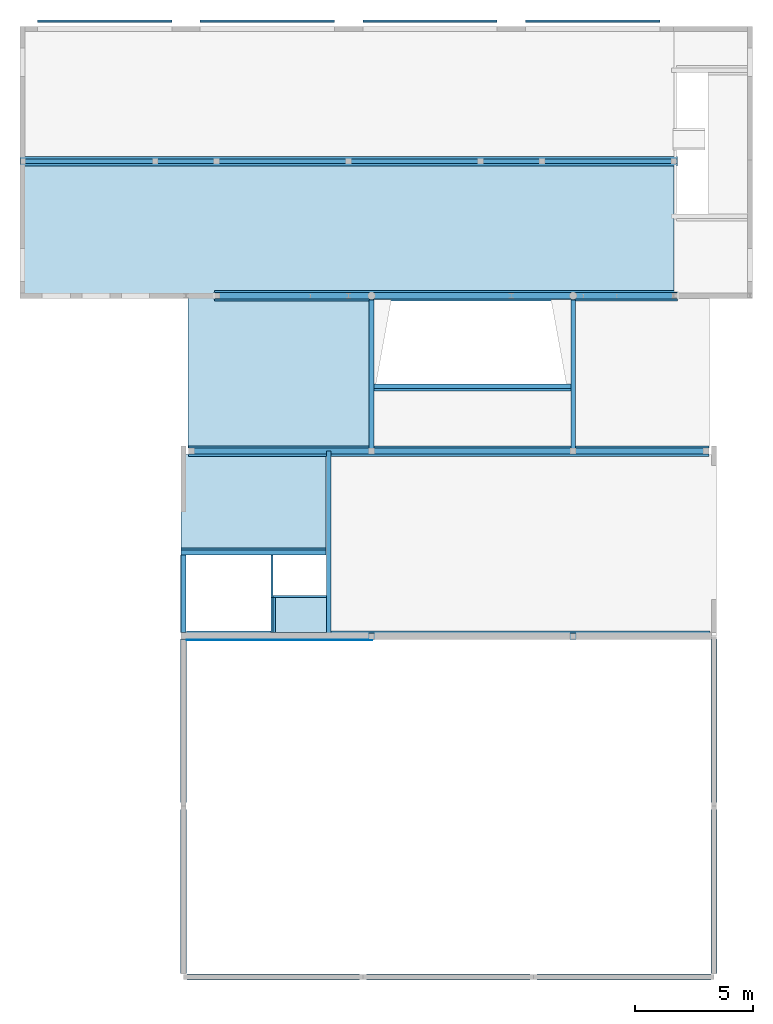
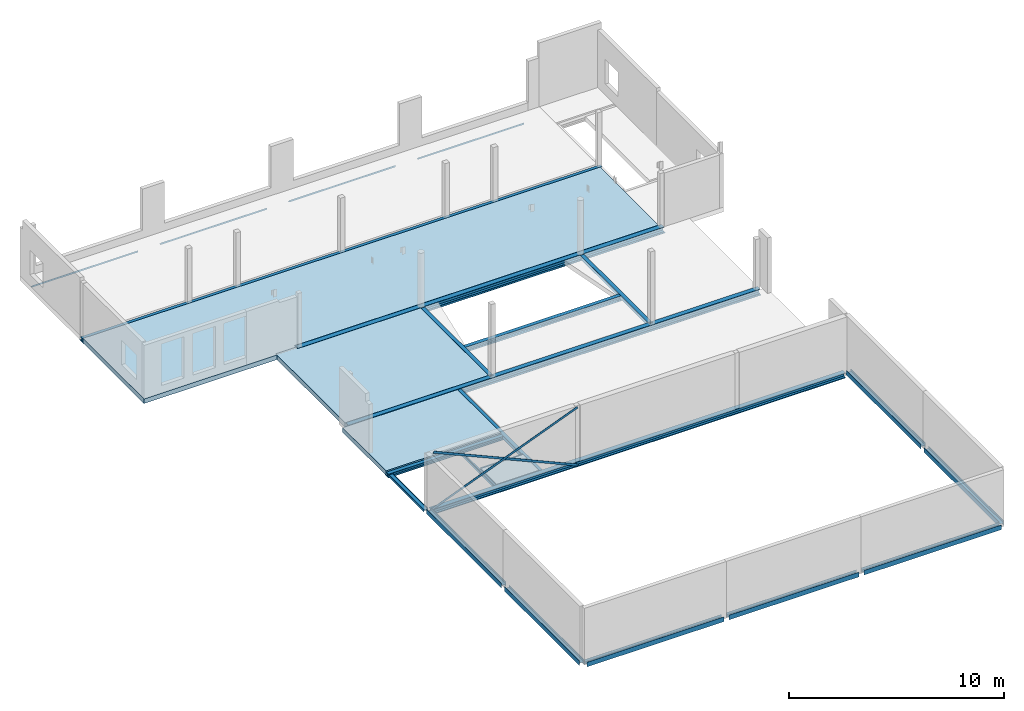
# One storey, part 2 of 6: 26 beams, 4 slabs.
"""IFC2X3 building model written with IfcOpenShell, lengths in millimetres."""

from ifc_helpers import new_model, entity, si_unit, converted_unit, derived_unit, direction, frame, frame_2d, origin, origin_2d_with_axis, place, context, subcontext, project, spatial, polyline, rectangle, i_section, outline, extrude, source, transform, mapped, material, layer, layer_set, layer_usage, type_object, type_shapes, element, save


model = new_model("IFC2X3")

# Units and contexts
model_context = context("Model", 3, precision=0.01, world=origin(), true_north=direction((6.123031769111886e-17, 1.0)))
body_context = subcontext(model_context, "Body", "Model", "MODEL_VIEW")
ifc_project = project(units=[si_unit("LENGTHUNIT", "METRE", prefix="MILLI"), si_unit("AREAUNIT", "SQUARE_METRE", prefix="MILLI"), si_unit("VOLUMEUNIT", "CUBIC_METRE"), converted_unit("PLANEANGLEUNIT", "DEGREE", entity("IfcPlaneAngleMeasure", 0.017453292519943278), si_unit("PLANEANGLEUNIT", "RADIAN"), dimensions=[0, 0, 0, 0, 0, 0, 0]), si_unit("MASSUNIT", "GRAM", prefix="KILO"), derived_unit("MASSDENSITYUNIT", [(si_unit("MASSUNIT", "GRAM", prefix="KILO"), 1), (si_unit("LENGTHUNIT", "METRE"), -3)]), derived_unit("IONCONCENTRATIONUNIT", [(si_unit("MASSUNIT", "GRAM", prefix="KILO"), 1), (si_unit("LENGTHUNIT", "METRE"), -3)]), derived_unit("MOMENTOFINERTIAUNIT", [(si_unit("LENGTHUNIT", "METRE"), 4)]), si_unit("TIMEUNIT", "SECOND"), si_unit("FREQUENCYUNIT", "HERTZ"), si_unit("THERMODYNAMICTEMPERATUREUNIT", "DEGREE_CELSIUS"), derived_unit("THERMALTRANSMITTANCEUNIT", [(si_unit("MASSUNIT", "GRAM", prefix="KILO"), 1), (si_unit("THERMODYNAMICTEMPERATUREUNIT", "KELVIN"), -1), (si_unit("TIMEUNIT", "SECOND"), -3)]), derived_unit("THERMALCONDUCTANCEUNIT", [(si_unit("MASSUNIT", "GRAM", prefix="KILO"), 1), (si_unit("THERMODYNAMICTEMPERATUREUNIT", "KELVIN"), -1), (si_unit("TIMEUNIT", "SECOND"), -3), (si_unit("LENGTHUNIT", "METRE"), 1)]), derived_unit("VOLUMETRICFLOWRATEUNIT", [(si_unit("LENGTHUNIT", "METRE", prefix="DECI"), 3), (si_unit("TIMEUNIT", "SECOND"), -1)]), derived_unit("MASSFLOWRATEUNIT", [(si_unit("MASSUNIT", "GRAM", prefix="KILO"), 1), (si_unit("TIMEUNIT", "SECOND"), -1)]), derived_unit("ROTATIONALFREQUENCYUNIT", [(si_unit("TIMEUNIT", "SECOND"), -1)]), si_unit("ELECTRICCURRENTUNIT", "AMPERE"), si_unit("ELECTRICVOLTAGEUNIT", "VOLT"), si_unit("POWERUNIT", "WATT"), si_unit("FORCEUNIT", "NEWTON", prefix="KILO"), si_unit("ILLUMINANCEUNIT", "LUX"), si_unit("LUMINOUSFLUXUNIT", "LUMEN"), si_unit("LUMINOUSINTENSITYUNIT", "CANDELA"), si_unit("ENERGYUNIT", "JOULE"), derived_unit("USERDEFINED", [(si_unit("MASSUNIT", "GRAM", prefix="KILO"), -1), (si_unit("LENGTHUNIT", "METRE"), -2), (si_unit("TIMEUNIT", "SECOND"), 3), (si_unit("LUMINOUSFLUXUNIT", "LUMEN"), 1)]), derived_unit("USERDEFINED", [(si_unit("MASSUNIT", "GRAM", prefix="KILO"), 1), (si_unit("TIMEUNIT", "SECOND"), -3), (si_unit("LENGTHUNIT", "METRE"), 3), (si_unit("ELECTRICCURRENTUNIT", "AMPERE"), -2)]), derived_unit("SOUNDPOWERUNIT", [(si_unit("MASSUNIT", "GRAM", prefix="KILO"), 1), (si_unit("TIMEUNIT", "SECOND"), -3), (si_unit("LENGTHUNIT", "METRE"), 2)]), derived_unit("SOUNDPRESSUREUNIT", [(si_unit("MASSUNIT", "GRAM", prefix="KILO"), 1), (si_unit("LENGTHUNIT", "METRE"), -1), (si_unit("TIMEUNIT", "SECOND"), -2)]), derived_unit("LINEARVELOCITYUNIT", [(si_unit("LENGTHUNIT", "METRE"), 1), (si_unit("TIMEUNIT", "SECOND"), -1)]), si_unit("PRESSUREUNIT", "PASCAL"), derived_unit("USERDEFINED", [(si_unit("MASSUNIT", "GRAM", prefix="KILO"), 1), (si_unit("LENGTHUNIT", "METRE"), -2), (si_unit("TIMEUNIT", "SECOND"), -2)]), derived_unit("LINEARFORCEUNIT", [(si_unit("MASSUNIT", "GRAM", prefix="KILO"), 1), (si_unit("TIMEUNIT", "SECOND"), -2)]), derived_unit("PLANARFORCEUNIT", [(si_unit("MASSUNIT", "GRAM", prefix="KILO"), 1), (si_unit("LENGTHUNIT", "METRE"), -1), (si_unit("TIMEUNIT", "SECOND"), -2)]), derived_unit("SPECIFICHEATCAPACITYUNIT", [(si_unit("THERMODYNAMICTEMPERATUREUNIT", "KELVIN"), -1), (si_unit("LENGTHUNIT", "METRE"), 2), (si_unit("TIMEUNIT", "SECOND"), -2)]), derived_unit("HEATFLUXDENSITYUNIT", [(si_unit("MASSUNIT", "GRAM", prefix="KILO"), 1), (si_unit("TIMEUNIT", "SECOND"), -3)]), derived_unit("HEATINGVALUEUNIT", [(si_unit("LENGTHUNIT", "METRE"), 2), (si_unit("TIMEUNIT", "SECOND"), -2)]), derived_unit("VAPORPERMEABILITYUNIT", [(si_unit("LENGTHUNIT", "METRE"), -1), (si_unit("TIMEUNIT", "SECOND"), 1)]), derived_unit("DYNAMICVISCOSITYUNIT", [(si_unit("MASSUNIT", "GRAM", prefix="KILO"), 1), (si_unit("TIMEUNIT", "SECOND"), -1), (si_unit("LENGTHUNIT", "METRE"), -1)]), derived_unit("THERMALEXPANSIONCOEFFICIENTUNIT", [(si_unit("THERMODYNAMICTEMPERATUREUNIT", "KELVIN"), -1)]), derived_unit("MODULUSOFELASTICITYUNIT", [(si_unit("MASSUNIT", "GRAM", prefix="KILO"), 1), (si_unit("LENGTHUNIT", "METRE"), -1), (si_unit("TIMEUNIT", "SECOND"), -2)]), derived_unit("ISOTHERMALMOISTURECAPACITYUNIT", [(si_unit("MASSUNIT", "GRAM", prefix="KILO"), -1), (si_unit("LENGTHUNIT", "METRE"), 3)]), derived_unit("MOISTUREDIFFUSIVITYUNIT", [(si_unit("TIMEUNIT", "SECOND"), -1), (si_unit("LENGTHUNIT", "METRE"), 2)]), derived_unit("MASSPERLENGTHUNIT", [(si_unit("MASSUNIT", "GRAM", prefix="KILO"), 1), (si_unit("LENGTHUNIT", "METRE"), -1)]), derived_unit("THERMALRESISTANCEUNIT", [(si_unit("MASSUNIT", "GRAM", prefix="KILO"), -1), (si_unit("TIMEUNIT", "SECOND"), 3), (si_unit("THERMODYNAMICTEMPERATUREUNIT", "KELVIN"), 1)]), derived_unit("ACCELERATIONUNIT", [(si_unit("LENGTHUNIT", "METRE"), 1), (si_unit("TIMEUNIT", "SECOND"), -2)]), derived_unit("ANGULARVELOCITYUNIT", [(si_unit("TIMEUNIT", "SECOND"), -1), (si_unit("PLANEANGLEUNIT", "RADIAN"), 1)]), derived_unit("LINEARSTIFFNESSUNIT", [(si_unit("MASSUNIT", "GRAM", prefix="KILO"), 1), (si_unit("TIMEUNIT", "SECOND"), -2)]), derived_unit("WARPINGCONSTANTUNIT", [(si_unit("LENGTHUNIT", "METRE"), 6)]), derived_unit("LINEARMOMENTUNIT", [(si_unit("MASSUNIT", "GRAM", prefix="KILO"), 1), (si_unit("LENGTHUNIT", "METRE"), 1), (si_unit("TIMEUNIT", "SECOND"), -2)]), derived_unit("TORQUEUNIT", [(si_unit("MASSUNIT", "GRAM", prefix="KILO"), 1), (si_unit("LENGTHUNIT", "METRE"), 2), (si_unit("TIMEUNIT", "SECOND"), -2)])], contexts=[model_context])

# Site, building, storey
site_placement = place(None, origin())
site = spatial("IfcSite", under=ifc_project, at=site_placement, Name="Default", CompositionType="ELEMENT")
building_placement = place(site_placement, origin())
building = spatial("IfcBuilding", under=site, at=building_placement, CompositionType="ELEMENT")
storey_placement = place(building_placement, frame((0.0, 0.0, 7530.0)))
storey = spatial("IfcBuildingStorey", under=building, at=storey_placement, Name="V2 2e verd. (bk ruwe vloer)", CompositionType="ELEMENT", Elevation=7529.999999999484)

# Beams
ifc_material_1 = material(Name="Metal - Steel - S355 JR (standaard-geintegreerde liggers)")
beam_type_1 = type_object("IfcBeamType", Name="btl_staal - SFB:SFB HEM240+450x15", PredefinedType="BEAM", material=ifc_material_1)
shared_shape_1 = source(origin(), body_context, "Body", "SweptSolid", [
    extrude(outline(polyline([(103.0, -124.0), (135.0, -124.0), (135.0, 124.0), (103.0, 124.0), (103.0, 9.0), (-103.0, 9.0), (-103.0, 124.0), (-135.0, 124.0), (-135.0, -124.0), (-103.0, -124.0), (-103.0, -9.0), (103.0, -9.0), (103.0, -124.0)])), frame((-11038.977585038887, 0.0, 36.0), z_axis=(1.0, 0.0, 0.0), x_axis=(0.0, 0.0, -1.0)), (0.0, 0.0, 1.0), 22077.95517007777),
    extrude(rectangle(XDim=15.000000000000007, YDim=450.00000000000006, at=frame_2d((-1.687538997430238e-14, 0.0), x_axis=(1.0, 0.0))), frame((-11038.977585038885, 0.0, -106.50000000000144), z_axis=(1.0, 0.0, 0.0), x_axis=(0.0, 0.0, -1.0)), (0.0, 0.0, 1.0), 22077.95517007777),
])
type_shapes(beam_type_1, [shared_shape_1])
beam_1_placement = place(storey_placement, frame((17975.001944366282, 25344.605013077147, -161.0)))
element("IfcBeam", 1, at=beam_1_placement, inside=storey, type_object=beam_type_1, material=ifc_material_1, Name="btl_staal - SFB:SFB HEM240+450x15", ObjectType="btl_staal - SFB:SFB HEM240+450x15", context=body_context, shape_type="MappedRepresentation", body=[
    mapped(shared_shape_1, transform((0.0, 0.0, 0.0), scale=1.0)),
])
beam_type_2 = type_object("IfcBeamType", Name="btl_staal - SFB:SFB HEB260+460x15", PredefinedType="BEAM", material=ifc_material_1)
shared_shape_2 = source(origin(), body_context, "Body", "SweptSolid", [
    extrude(outline(polyline([(112.49999999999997, -130.0), (130.0, -130.0), (130.0, 130.0), (112.49999999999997, 130.0), (112.49999999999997, 5.0), (-112.50000000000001, 5.0), (-112.50000000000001, 130.0), (-130.0, 130.0), (-130.0, -130.0), (-112.50000000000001, -130.0), (-112.50000000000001, -5.0), (112.49999999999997, -5.0), (112.49999999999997, -130.0)])), frame((-9816.164764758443, 0.0, 51.0), z_axis=(1.0, 0.0, 0.0), x_axis=(0.0, 0.0, -1.0)), (0.0, 0.0, 1.0), 19632.329529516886),
    extrude(rectangle(XDim=14.999999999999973, YDim=460.0, at=origin_2d_with_axis()), frame((-9816.164764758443, 0.0, -86.50000000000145), z_axis=(1.0, 0.0, 0.0), x_axis=(0.0, 0.0, -1.0)), (0.0, 0.0, 1.0), 19632.329529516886),
])
type_shapes(beam_type_2, [shared_shape_2])
beam_2_placement = place(storey_placement, frame((17856.721088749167, 31937.57320506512, -181.0)))
element("IfcBeam", 2, at=beam_2_placement, inside=storey, type_object=beam_type_2, material=ifc_material_1, Name="btl_staal - SFB:SFB HEB260+460x15", ObjectType="btl_staal - SFB:SFB HEB260+460x15", context=body_context, shape_type="MappedRepresentation", body=[
    mapped(shared_shape_2, transform((0.0, 0.0, 0.0), scale=1.0)),
])
beam_type_3 = type_object("IfcBeamType", Name="btl_staal - SFB:SFB HEB200+400x15 (S355)", PredefinedType="BEAM", material=ifc_material_1)
shared_shape_3 = source(origin(), body_context, "Body", "SweptSolid", [
    extrude(outline(polyline([(85.0, -100.0), (100.0, -100.0), (100.0, 100.0), (85.0, 100.0), (85.0, 4.49999999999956), (-85.0, 4.49999999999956), (-85.0, 100.0), (-100.0, 100.0), (-100.0, -100.0), (-85.0, -100.0), (-85.0, -4.500000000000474), (85.0, -4.500000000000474), (85.0, -100.0)])), frame((-13944.48976005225, 0.0, 47.0), z_axis=(1.0, 0.0, 0.0), x_axis=(0.0, 0.0, -1.0)), (0.0, 0.0, 1.0), 27888.979520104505),
    extrude(rectangle(XDim=15.000000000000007, YDim=400.0, at=origin_2d_with_axis()), frame((-13944.489760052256, 0.0, -60.50000000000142), z_axis=(1.0, 0.0, 0.0), x_axis=(0.0, 0.0, -1.0)), (0.0, 0.0, 1.0), 27888.979520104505),
])
type_shapes(beam_type_3, [shared_shape_3])
beam_3_placement = place(storey_placement, frame((13730.48976005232, 37644.573205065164, -207.0)))
element("IfcBeam", 3, at=beam_3_placement, inside=storey, type_object=beam_type_3, material=ifc_material_1, Name="btl_staal - SFB:SFB HEB200+400x15 (S355)", ObjectType="btl_staal - SFB:SFB HEB200+400x15 (S355)", context=body_context, shape_type="MappedRepresentation", body=[
    mapped(shared_shape_3, transform((0.0, 0.0, 0.0), scale=1.0)),
])
ifc_material_2 = material(Name="Metal - Steel - S235 JRG2 (standaard)")
beam_type_4 = type_object("IfcBeamType", Name="btl_staal - Strip b x h:120x12 Vwvb", PredefinedType="NOTDEFINED")
beam_4_placement = place(storey_placement, frame((6723.000781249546, 17338.605013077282, 0.0), z_axis=(-0.36490078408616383, 5.892514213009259e-05, 0.9310464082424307), x_axis=(0.9310463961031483, -0.0001503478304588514, 0.36490078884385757)))
element("IfcBeam", 4, at=beam_4_placement, inside=storey, type_object=beam_type_4, material=ifc_material_2, Name="btl_staal - Strip b x h:120x12 Vwvb", ObjectType="btl_staal - Strip b x h:120x12 Vwvb", context=body_context, shape_type="SweptSolid", body=[
    extrude(rectangle(XDim=120.00000000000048, YDim=12.00000000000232, at=frame_2d((-6.998845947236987e-13, 0.0), x_axis=(1.0, 0.0))), frame((170.47410938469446, 0.0, 0.0), z_axis=(1.0, 0.0, 0.0), x_axis=(0.0, 0.0, -1.0)), (0.0, 0.0, 1.0), 8366.858182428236),
])
beam_5_placement = place(storey_placement, frame((14703.242734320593, 17338.605013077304, -181.0), z_axis=(0.4061447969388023, 0.0, 0.9138087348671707), x_axis=(-0.9138087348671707, 0.0, 0.4061447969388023)))
element("IfcBeam", 5, at=beam_5_placement, inside=storey, type_object=beam_type_4, material=ifc_material_2, Name="btl_staal - Strip b x h:120x12 Vwvb", ObjectType="btl_staal - Strip b x h:120x12 Vwvb", context=body_context, shape_type="SweptSolid", body=[
    extrude(rectangle(XDim=119.99999999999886, YDim=12.000000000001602, at=frame_2d((-9.912071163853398e-13, -3.248512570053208e-12), x_axis=(1.0, 0.0))), frame((0.0, 0.0, 0.0), z_axis=(1.0, 0.0, 0.0), x_axis=(0.0, 0.0, -1.0)), (0.0, 0.0, 1.0), 8491.929851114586),
])
beam_type_5 = type_object("IfcBeamType", Name="btl_staal - HE(a-b-m):HEB200 (S355)", PredefinedType="NOTDEFINED")
beam_6_placement = place(storey_placement, frame((14699.994921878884, 25344.605013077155, 10.0), z_axis=(0.0, 0.0015167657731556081, 0.9999988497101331), x_axis=(0.0, 0.9999988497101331, -0.0015167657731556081)))
element("IfcBeam", 6, at=beam_6_placement, inside=storey, type_object=beam_type_5, material=ifc_material_1, Name="btl_staal - HE(a-b-m):HEB200 (S355)", ObjectType="btl_staal - HE(a-b-m):HEB200 (S355)", context=body_context, shape_type="SweptSolid", body=[
    extrude(i_section(OverallWidth=200.0, OverallDepth=199.99999999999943, WebThickness=9.00000000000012, FlangeThickness=15.000000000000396, at=frame_2d((0.0, -1.0871303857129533e-12), x_axis=(0.0, 1.0))), frame((12.700000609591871, 0.0, -100.0), z_axis=(1.0, 0.0, 0.0), x_axis=(0.0, 0.0, -1.0)), (0.0, 0.0, 1.0), 6405.625588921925),
])
beam_7_placement = place(storey_placement, frame((23249.986607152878, 25344.605013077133, 10.0), z_axis=(0.0, 0.0015167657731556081, 0.9999988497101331), x_axis=(0.0, 0.9999988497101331, -0.0015167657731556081)))
element("IfcBeam", 7, at=beam_7_placement, inside=storey, type_object=beam_type_5, material=ifc_material_1, Name="btl_staal - HE(a-b-m):HEB200 (S355)", ObjectType="btl_staal - HE(a-b-m):HEB200 (S355)", context=body_context, shape_type="SweptSolid", body=[
    extrude(i_section(OverallWidth=200.0000000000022, OverallDepth=199.99999999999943, WebThickness=9.000000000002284, FlangeThickness=15.000000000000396, at=frame_2d((0.0, 2.1671553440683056e-12), x_axis=(0.0, 1.0))), frame((12.700000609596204, 0.0, -100.0), z_axis=(1.0, 0.0, 0.0), x_axis=(0.0, 0.0, -1.0)), (0.0, 0.0, 1.0), 6405.625588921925),
])
beam_type_6 = type_object("IfcBeamType", Name="btl_staal - SFB:SFB HEB200+300x10", PredefinedType="BEAM", material=ifc_material_1)
shared_shape_4 = source(origin(), body_context, "Body", "SweptSolid", [
    extrude(outline(polyline([(85.0, -100.0), (100.0, -100.0), (100.0, 100.0), (85.0, 100.0), (85.0, 4.499999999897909), (-85.0, 4.500000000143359), (-85.0, 100.0), (-100.0, 100.0), (-100.0, -100.0), (-85.0, -100.0), (-85.0, -4.4999999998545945), (85.0, -4.500000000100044), (85.0, -100.0)])), frame((14799.99492187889, 28102.74640280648, 7410.0), z_axis=(1.0, 0.0, 0.0), x_axis=(0.0, 0.0, -1.0)), (0.0, 0.0, 1.0), 8349.991685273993),
    extrude(rectangle(XDim=9.999999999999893, YDim=299.99999999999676, at=frame_2d((-1.0831335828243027e-12, 1.949729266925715e-11), x_axis=(1.0, 0.0))), frame((14799.994921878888, 28052.746402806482, 7305.0), z_axis=(1.0, 0.0, 0.0), x_axis=(0.0, 0.0, -1.0)), (0.0, 0.0, 1.0), 8349.991685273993),
])
type_shapes(beam_type_6, [shared_shape_4])
beam_8_placement = place(storey_placement, frame((0.0, 0.0, -7530.0)))
element("IfcBeam", 8, at=beam_8_placement, inside=storey, type_object=beam_type_6, material=ifc_material_1, Name="btl_staal - SFB:SFB HEB200+300x10", ObjectType="btl_staal - SFB:SFB HEB200+300x10", context=body_context, shape_type="MappedRepresentation", body=[
    mapped(shared_shape_4, transform((0.0, 0.0, 0.0), scale=1.0)),
])
beam_type_7 = type_object("IfcBeamType", Name="btl_staal - HE(a-b-m):HEA260", PredefinedType="NOTDEFINED")
beam_9_placement = place(storey_placement, frame((29351.985770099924, 17387.36345757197, 0.0), z_axis=(0.0, 0.0, 1.0), x_axis=(0.0, -1.0, 0.0)))
element("IfcBeam", 9, at=beam_9_placement, inside=storey, type_object=beam_type_7, material=ifc_material_2, Name="btl_staal - HE(a-b-m):HEA260", ObjectType="btl_staal - HE(a-b-m):HEA260", context=body_context, shape_type="SweptSolid", body=[
    extrude(i_section(OverallWidth=259.9999999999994, OverallDepth=249.9999999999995, WebThickness=7.50000000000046, FlangeThickness=12.499999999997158, at=frame_2d((5.400124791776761e-13, 2.1671553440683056e-12), x_axis=(1.0, 0.0))), frame((15.458444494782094, -125.0, 0.0), z_axis=(1.0, 0.0, 0.0), x_axis=(0.0, 0.0, -1.0)), (0.0, 0.0, 1.0), 6934.600000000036),
])
beam_10_placement = place(storey_placement, frame((29351.985770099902, 3080.485269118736, 0.0), z_axis=(0.0, 0.0, 1.0), x_axis=(0.0, 1.0, 0.0)))
element("IfcBeam", 10, at=beam_10_placement, inside=storey, type_object=beam_type_7, material=ifc_material_2, Name="btl_staal - HE(a-b-m):HEA260", ObjectType="btl_staal - HE(a-b-m):HEA260", context=body_context, shape_type="SweptSolid", body=[
    extrude(i_section(OverallWidth=260.00000000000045, OverallDepth=250.0000000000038, WebThickness=7.50000000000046, FlangeThickness=12.50000000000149, at=frame_2d((1.0800249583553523e-12, 2.1671553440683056e-12), x_axis=(1.0, 0.0))), frame((94.81974395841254, 125.0, 0.0), z_axis=(1.0, 0.0, 0.0), x_axis=(0.0, 0.0, -1.0)), (0.0, 0.0, 1.0), 6976.599999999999),
])
beam_11_placement = place(storey_placement, frame((29192.80703105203, 2915.1050130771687, 0.0), z_axis=(0.0, 0.0, 1.0), x_axis=(-1.0, 0.0, 0.0)))
element("IfcBeam", 11, at=beam_11_placement, inside=storey, type_object=beam_type_7, material=ifc_material_2, Name="btl_staal - HE(a-b-m):HEA260", ObjectType="btl_staal - HE(a-b-m):HEA260", context=body_context, shape_type="SweptSolid", body=[
    extrude(i_section(OverallWidth=259.9999999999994, OverallDepth=250.0, WebThickness=7.499999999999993, FlangeThickness=12.499999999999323, at=frame_2d((5.400124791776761e-13, -1.3571366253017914e-12), x_axis=(1.0, 0.0))), frame((103.52126095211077, -125.0, 0.0), z_axis=(1.0, 0.0, 0.0), x_axis=(0.0, 0.0, -1.0)), (0.0, 0.0, 1.0), 7373.155708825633),
])
beam_12_placement = place(storey_placement, frame((14220.949303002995, 2910.105013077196, 0.0)))
element("IfcBeam", 12, at=beam_12_placement, inside=storey, type_object=beam_type_7, material=ifc_material_2, Name="btl_staal - HE(a-b-m):HEA260", ObjectType="btl_staal - HE(a-b-m):HEA260", context=body_context, shape_type="SweptSolid", body=[
    extrude(i_section(OverallWidth=260.00000000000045, OverallDepth=249.9999999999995, WebThickness=7.500000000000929, FlangeThickness=12.500000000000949, at=frame_2d((1.0800249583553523e-12, 1.3571366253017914e-12), x_axis=(1.0, 0.0))), frame((254.3059492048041, 125.0, 0.0), z_axis=(1.0, 0.0, 0.0), x_axis=(0.0, 0.0, -1.0)), (0.0, 0.0, 1.0), 6955.474809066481),
])
beam_13_placement = place(storey_placement, frame((14328.805252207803, 2910.1050130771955, 0.0), z_axis=(0.0, 0.0, 1.0), x_axis=(-1.0, 0.0, 0.0)))
element("IfcBeam", 13, at=beam_13_placement, inside=storey, type_object=beam_type_7, material=ifc_material_2, Name="btl_staal - HE(a-b-m):HEA260", ObjectType="btl_staal - HE(a-b-m):HEA260", context=body_context, shape_type="SweptSolid", body=[
    extrude(i_section(OverallWidth=259.9999999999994, OverallDepth=250.0, WebThickness=7.4999999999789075, FlangeThickness=12.499999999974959, at=frame_2d((5.400124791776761e-13, -8.100187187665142e-13), x_axis=(1.0, 0.0))), frame((138.95000000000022, -125.0, 0.0), z_axis=(1.0, 0.0, 0.0), x_axis=(0.0, 0.0, -1.0)), (0.0, 0.0, 1.0), 7329.154470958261),
])
beam_14_placement = place(storey_placement, frame((6598.000781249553, 10294.60501307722, 0.0), z_axis=(0.0, 0.0, 1.0), x_axis=(0.0, -1.0, 0.0)))
element("IfcBeam", 14, at=beam_14_placement, inside=storey, type_object=beam_type_7, material=ifc_material_2, Name="btl_staal - HE(a-b-m):HEA260", ObjectType="btl_staal - HE(a-b-m):HEA260", context=body_context, shape_type="SweptSolid", body=[
    extrude(i_section(OverallWidth=260.00000000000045, OverallDepth=249.9999999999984, WebThickness=7.50000000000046, FlangeThickness=12.500000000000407, at=frame_2d((1.0800249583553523e-12, 5.471179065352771e-13), x_axis=(1.0, 0.0))), frame((142.69999999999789, 125.0, 0.0), z_axis=(1.0, 0.0, 0.0), x_axis=(0.0, 0.0, -1.0)), (0.0, 0.0, 1.0), 6976.599999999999),
])
beam_15_placement = place(storey_placement, frame((6598.000781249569, 10295.473531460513, 0.0), z_axis=(0.0, 0.0, 1.0), x_axis=(0.0, 1.0, 0.0)))
element("IfcBeam", 15, at=beam_15_placement, inside=storey, type_object=beam_type_7, material=ifc_material_2, Name="btl_staal - HE(a-b-m):HEA260", ObjectType="btl_staal - HE(a-b-m):HEA260", context=body_context, shape_type="SweptSolid", body=[
    extrude(i_section(OverallWidth=259.9999999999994, OverallDepth=249.9999999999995, WebThickness=7.499999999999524, FlangeThickness=12.499999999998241, at=frame_2d((5.400124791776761e-13, 0.0), x_axis=(1.0, 0.0))), frame((141.83148161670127, -125.0, 0.0), z_axis=(1.0, 0.0, 0.0), x_axis=(0.0, 0.0, -1.0)), (0.0, 0.0, 1.0), 6934.600000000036),
])
beam_type_8 = type_object("IfcBeamType", Name="btl_staal - SFB:SFB HEB260+360x15", PredefinedType="BEAM", material=ifc_material_1)
shared_shape_5 = source(origin(), body_context, "Body", "SweptSolid", [
    extrude(rectangle(XDim=14.999999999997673, YDim=379.99999999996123, at=frame_2d((5.413447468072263e-13, 0.0), x_axis=(1.0, 0.0))), frame((6851.310545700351, 17534.605013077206, 7262.500000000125), z_axis=(1.0, 0.0, 0.0), x_axis=(0.0, 0.0, -1.0)), (0.0, 0.0, 1.0), 22207.74265847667),
    extrude(outline(polyline([(112.50000000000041, -130.0), (130.0, -130.0), (130.0, 130.0), (112.50000000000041, 130.0), (112.50000000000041, 5.0), (-112.50000000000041, 5.0), (-112.50000000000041, 130.0), (-130.0, 130.0), (-130.0, -130.0), (-112.50000000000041, -130.0), (-112.50000000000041, -5.0), (112.50000000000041, -5.0), (112.50000000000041, -130.0)])), frame((6851.310545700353, 17494.605013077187, 7400.0), z_axis=(1.0, 0.0, 0.0), x_axis=(0.0, 0.0, -1.0)), (0.0, 0.0, 1.0), 22207.742658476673),
])
type_shapes(beam_type_8, [shared_shape_5])
beam_16_placement = place(storey_placement, frame((0.0, 0.0, -7530.0)))
element("IfcBeam", 16, at=beam_16_placement, inside=storey, type_object=beam_type_8, material=ifc_material_1, Name="btl_staal - SFB:SFB HEB260+360x15", ObjectType="btl_staal - SFB:SFB HEB260+360x15", context=body_context, shape_type="MappedRepresentation", body=[
    mapped(shared_shape_5, transform((0.0, 0.0, 0.0), scale=1.0)),
])
beam_type_9 = type_object("IfcBeamType", Name="btl_staal - HE(a-b-m):HEB200", PredefinedType="NOTDEFINED")
beam_17_placement = place(storey_placement, frame((12886.325742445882, 25344.605013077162, -60.0), z_axis=(0.0, 0.0, 1.0), x_axis=(0.0, -1.0, 0.0)))
element("IfcBeam", 17, at=beam_17_placement, inside=storey, type_object=beam_type_9, material=ifc_material_2, Name="btl_staal - HE(a-b-m):HEB200", ObjectType="btl_staal - HE(a-b-m):HEB200", context=body_context, shape_type="SweptSolid", body=[
    extrude(i_section(OverallWidth=200.0, OverallDepth=200.0, WebThickness=9.00000000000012, FlangeThickness=14.999999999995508, at=frame_2d((0.0, -1.0871303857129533e-12), x_axis=(0.0, 1.0))), frame((0.0, 0.0, -100.0), z_axis=(1.0, 0.0, 0.0), x_axis=(0.0, 0.0, -1.0)), (0.0, 0.0, 1.0), 7728.750000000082),
])
beam_type_10 = type_object("IfcBeamType", Name="btl_staal - UNP:UNP200", PredefinedType="NOTDEFINED")
beam_18_placement = place(storey_placement, frame((10489.83892426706, 20945.667569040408, -60.0), z_axis=(0.0, 0.0, 1.0), x_axis=(0.0, -1.0, 0.0)))
element("IfcBeam", 18, at=beam_18_placement, inside=storey, type_object=beam_type_10, material=ifc_material_2, Name="btl_staal - UNP:UNP200", ObjectType="btl_staal - UNP:UNP200", context=body_context, shape_type="SweptSolid", body=[
    extrude(outline(polyline([(-100.0, -35.375000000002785), (-88.50000000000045, -35.375000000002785), (-77.9674347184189, 31.12499999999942), (77.9674347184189, 31.124999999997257), (88.4999999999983, -35.37499999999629), (100.0, -35.375000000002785), (100.0, 39.62499999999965), (-100.0, 39.62499999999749), (-100.0, -35.375000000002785)])), frame((0.0, -19.524999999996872, -100.0), z_axis=(1.0, 0.0, 0.0), x_axis=(0.0, 0.0, -1.0)), (0.0, 0.0, 1.0), 1805.917774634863),
])
beam_19_placement = place(storey_placement, frame((10509.938924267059, 19159.84979440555, 0.0)))
element("IfcBeam", 19, at=beam_19_placement, inside=storey, type_object=beam_type_10, material=ifc_material_2, Name="btl_staal - UNP:UNP200", ObjectType="btl_staal - UNP:UNP200", context=body_context, shape_type="SweptSolid", body=[
    extrude(outline(polyline([(-100.0, -39.62500000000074), (100.0, -39.62500000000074), (100.0, 35.37499999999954), (88.49999999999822, 35.37499999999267), (77.96743471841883, -31.12500000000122), (-77.96743471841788, -31.12500000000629), (-88.5000000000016, 35.37499999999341), (-100.0, 35.374999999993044), (-100.0, -39.62500000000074)])), frame((0.0, 19.52499999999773, -100.0), z_axis=(1.0, 0.0, 0.0), x_axis=(0.0, 0.0, -1.0)), (0.0, 0.0, 1.0), 2276.3868181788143),
])
beam_type_11 = type_object("IfcBeamType", Name="btl_staal - UNP met onderstrip:UNP200+strip 190x10", PredefinedType="BEAM", material=ifc_material_2)
shared_shape_6 = source(origin(), body_context, "Body", "SweptSolid", [
    extrude(rectangle(XDim=9.999999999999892, YDim=190.0000000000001, at=frame_2d((0.0, 0.0), x_axis=(0.0, 1.0))), frame((10529.938924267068, 19139.74979379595, 7265.0), z_axis=(0.0, -1.0, 0.0), x_axis=(-1.0, 0.0, 0.0)), (0.0, 0.0, 1.0), 1495.1447807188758),
    extrude(outline(polyline([(-39.62499999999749, -100.0), (35.375000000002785, -100.0), (35.375000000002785, -88.49999999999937), (-31.124999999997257, -77.96743471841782), (-31.124999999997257, 77.96743471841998), (35.37499999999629, 88.49999999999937), (35.375000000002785, 100.0), (-39.62499999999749, 100.0), (-39.62499999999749, -100.0)])), frame((10470.31392426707, 19139.74979379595, 7370.0), z_axis=(0.0, -1.0, 0.0), x_axis=(-1.0, 0.0, 0.0)), (0.0, 0.0, 1.0), 1495.1447807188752),
])
type_shapes(beam_type_11, [shared_shape_6])
beam_20_placement = place(storey_placement, frame((0.0, 0.0, -7530.0)))
element("IfcBeam", 20, at=beam_20_placement, inside=storey, type_object=beam_type_11, material=ifc_material_2, Name="btl_staal - UNP met onderstrip:UNP200+strip 190x10", ObjectType="btl_staal - UNP met onderstrip:UNP200+strip 190x10", context=body_context, shape_type="MappedRepresentation", body=[
    mapped(shared_shape_6, transform((0.0, 0.0, 0.0), scale=1.0)),
])
beam_type_12 = type_object("IfcBeamType", Name="btl_staal - SFB:SFB HEB200+300x15", PredefinedType="BEAM", material=ifc_material_1)
shared_shape_7 = source(origin(), body_context, "Body", "SweptSolid", [
    extrude(i_section(OverallWidth=199.99999999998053, OverallDepth=200.0, WebThickness=9.000000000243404, FlangeThickness=14.999999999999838, at=frame_2d((-1.0800249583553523e-12, -2.1671553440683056e-12), x_axis=(0.0, 1.0))), frame((6611.000781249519, 21045.66756904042, 7370.0), z_axis=(1.0, 0.0, 0.0), x_axis=(0.0, 0.0, -1.0)), (0.0, 0.0, 1.0), 6162.624961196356),
    extrude(rectangle(XDim=14.99999999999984, YDim=300.0000000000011, at=frame_2d((0.0, -1.9483081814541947e-11), x_axis=(1.0, 0.0))), frame((6611.0007812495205, 21095.667569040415, 7262.500000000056), z_axis=(1.0, 0.0, 0.0), x_axis=(0.0, 0.0, -1.0)), (0.0, 0.0, 1.0), 6162.624961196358),
])
type_shapes(beam_type_12, [shared_shape_7])
beam_21_placement = place(storey_placement, frame((0.0, 0.0, -7530.0)))
element("IfcBeam", 21, at=beam_21_placement, inside=storey, type_object=beam_type_12, material=ifc_material_1, Name="btl_staal - SFB:SFB HEB200+300x15", ObjectType="btl_staal - SFB:SFB HEB200+300x15", context=body_context, shape_type="MappedRepresentation", body=[
    mapped(shared_shape_7, transform((0.0, 0.0, 0.0), scale=1.0)),
])
beam_type_13 = type_object("IfcBeamType", Name="btl_staal - IPE:IPE240", PredefinedType="NOTDEFINED")
beam_22_placement = place(storey_placement, frame((6838.000781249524, 20945.667569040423, -120.0), z_axis=(0.0, 0.0, 1.0), x_axis=(0.0, -1.0, 0.0)))
element("IfcBeam", 22, at=beam_22_placement, inside=storey, type_object=beam_type_13, material=ifc_material_2, Name="btl_staal - IPE:IPE240", ObjectType="btl_staal - IPE:IPE240", context=body_context, shape_type="SweptSolid", body=[
    extrude(i_section(OverallWidth=120.00000000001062, OverallDepth=239.9999999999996, WebThickness=6.199999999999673, FlangeThickness=9.799999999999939, at=frame_2d((5.435651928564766e-13, 1.0871303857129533e-12), x_axis=(1.0, 0.0))), frame((0.0, -120.0, 0.0), z_axis=(1.0, 0.0, 0.0), x_axis=(0.0, 0.0, -1.0)), (0.0, 0.0, 1.0), 3301.0625559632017),
])
beam_type_14 = type_object("IfcBeamType", Name="btl_staal - Hoeklijn 2.0:L100x100x10", PredefinedType="NOTDEFINED")
beam_23_placement = place(storey_placement, frame((7425.828851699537, 43562.79316510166, -932.0)))
element("IfcBeam", 23, at=beam_23_placement, inside=storey, type_object=beam_type_14, material=ifc_material_2, Name="btl_staal - Hoeklijn 2.0:L100x100x10", ObjectType="btl_staal - Hoeklijn 2.0:L100x100x10", context=body_context, shape_type="SweptSolid", body=[
    extrude(outline(polyline([(-63.33333333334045, -36.66666666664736), (36.66666666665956, -36.66666666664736), (36.66666666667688, 63.333333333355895), (26.666666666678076, 63.33333333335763), (26.666666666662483, -26.6666666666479), (-63.333333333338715, -26.666666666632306), (-63.33333333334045, -36.66666666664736)])), frame((0.0, 8.446666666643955, -63.333333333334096), z_axis=(1.0, 0.0, 0.0), x_axis=(0.0, 0.0, -1.0)), (0.0, 0.0, 1.0), 5700.299494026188),
])
for number, where, name in (
    (24, (14326.192283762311, 43562.79316510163, -932.0), "btl_staal - Hoeklijn 2.0:L100x100x10"),
    (25, (21226.557180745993, 43562.79316510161, -932.0), "btl_staal - Hoeklijn 2.0:L100x100x10"),
    (26, (525.466152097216, 43562.79316510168, -932.0), "btl_staal - Hoeklijn 2.0:L100x100x10"),
):
    element("IfcBeam", number, at=place(storey_placement, frame(where)), inside=storey, type_object=beam_type_14, material=ifc_material_2, Name=name, ObjectType="btl_staal - Hoeklijn 2.0:L100x100x10", context=body_context, shape_type="SweptSolid", body=[
        extrude(outline(polyline([(-63.33333333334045, -36.66666666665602), (36.66666666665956, -36.66666666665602), (36.66666666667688, 63.333333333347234), (26.666666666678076, 63.33333333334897), (26.666666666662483, -26.66666666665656), (-63.333333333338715, -26.666666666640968), (-63.33333333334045, -36.66666666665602)])), frame((0.0, 8.446666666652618, -63.333333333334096), z_axis=(1.0, 0.0, 0.0), x_axis=(0.0, 0.0, -1.0)), (0.0, 0.0, 1.0), 5700.299494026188),
    ])

# Slabs
ifc_material_3 = material(Name="Druklaag, C20/25 op systeemvloer")
ifc_layer_1 = layer(ifc_material_3, 60.0)
ifc_material_4 = material(Name="Beton, prefab - kanaalplaat")
ifc_layer_2 = layer(ifc_material_4, 200.0)
ifc_layer_set = layer_set([ifc_layer_1, ifc_layer_2], Name="Floor:C1_ kanaalplaat d=200+druklaag=60-50-60")
ifc_layer_usage = layer_usage(ifc_layer_set, "AXIS3", "POSITIVE", 0.0)
slab_type = type_object("IfcSlabType", Name="Floor:C1_ kanaalplaat d=200+druklaag=60-50-60", PredefinedType="FLOOR", material=ifc_layer_set)
slab_1_placement = place(storey_placement, origin())
element("IfcSlab", 27, at=slab_1_placement, inside=storey, type_object=slab_type, material=ifc_layer_usage, Name="Floor:C1_ kanaalplaat d=200+druklaag=60-50-60", ObjectType="Floor:C1_ kanaalplaat d=200+druklaag=60-50-60", PredefinedType="FLOOR", context=body_context, shape_type="SweptSolid", body=[
    extrude(outline(polyline([(-1506.999990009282, -10769.640050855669), (4167.000049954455, -10769.640050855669), (4167.000049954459, 16969.339469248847), (-1260.0000299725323, 16969.33946924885), (-1260.0000299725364, -2555.083726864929), (-1400.0000299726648, -2555.0837268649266), (-1400.0000299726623, -3644.6156915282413), (-1506.9999900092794, -3644.6156915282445), (-1506.999990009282, -10769.640050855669)])), frame((10555.64005085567, 33337.5731551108, 0.0), z_axis=(0.0, 0.0, -1.0), x_axis=(0.0, 1.0, 0.0)), (0.0, 0.0, 1.0), 260.00000000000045),
])
slab_2_placement = place(storey_placement, origin())
element("IfcSlab", 28, at=slab_2_placement, inside=storey, type_object=slab_type, material=ifc_layer_usage, Name="Floor:C1_ kanaalplaat d=200+druklaag=60-50-60", ObjectType="Floor:C1_ kanaalplaat d=200+druklaag=60-50-60", PredefinedType="FLOOR", context=body_context, shape_type="SweptSolid", body=[
    extrude(rectangle(XDim=1482.4447813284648, YDim=2271.386818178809, at=frame_2d((2.1600499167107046e-12, 0.0), x_axis=(1.0, 0.0))), frame((11650.632333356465, 18398.527403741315, 0.0), z_axis=(0.0, 0.0, -1.0), x_axis=(0.0, 1.0, 0.0)), (0.0, 0.0, 1.0), 260.00000000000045),
])
slab_3_placement = place(storey_placement, origin())
element("IfcSlab", 29, at=slab_3_placement, inside=storey, type_object=slab_type, material=ifc_layer_usage, Name="Floor:C1_ kanaalplaat d=200+druklaag=60-50-60", ObjectType="Floor:C1_ kanaalplaat d=200+druklaag=60-50-60", PredefinedType="FLOOR", context=body_context, shape_type="SweptSolid", body=[
    extrude(rectangle(XDim=4038.9374440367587, YDim=6165.130337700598, at=origin_2d_with_axis()), frame((9693.565950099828, 23185.136291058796, 0.0), z_axis=(0.0, 0.0, -1.0), x_axis=(0.0, 1.0, 0.0)), (0.0, 0.0, 1.0), 260.00000000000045),
])
slab_4_placement = place(storey_placement, origin())
element("IfcSlab", 30, at=slab_4_placement, inside=storey, type_object=slab_type, material=ifc_layer_usage, Name="Floor:C1_ kanaalplaat d=200+druklaag=60-50-60", ObjectType="Floor:C1_ kanaalplaat d=200+druklaag=60-50-60", PredefinedType="FLOOR", context=body_context, shape_type="SweptSolid", body=[
    extrude(outline(polyline([(-4255.312127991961, -2926.167509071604), (2197.6560639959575, -2926.167509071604), (2197.6560639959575, -1836.6355444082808), (2057.656063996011, -1836.6355444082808), (2057.656063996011, 4762.803053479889), (-4255.312127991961, 4762.803053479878), (-4255.312127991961, -2926.167509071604)])), frame((9837.191868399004, 29739.91714106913, 0.0), z_axis=(0.0, 0.0, -1.0), x_axis=(0.0, 1.0, 0.0)), (0.0, 0.0, 1.0), 260.00000000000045),
])

save(model, "model.ifc")
